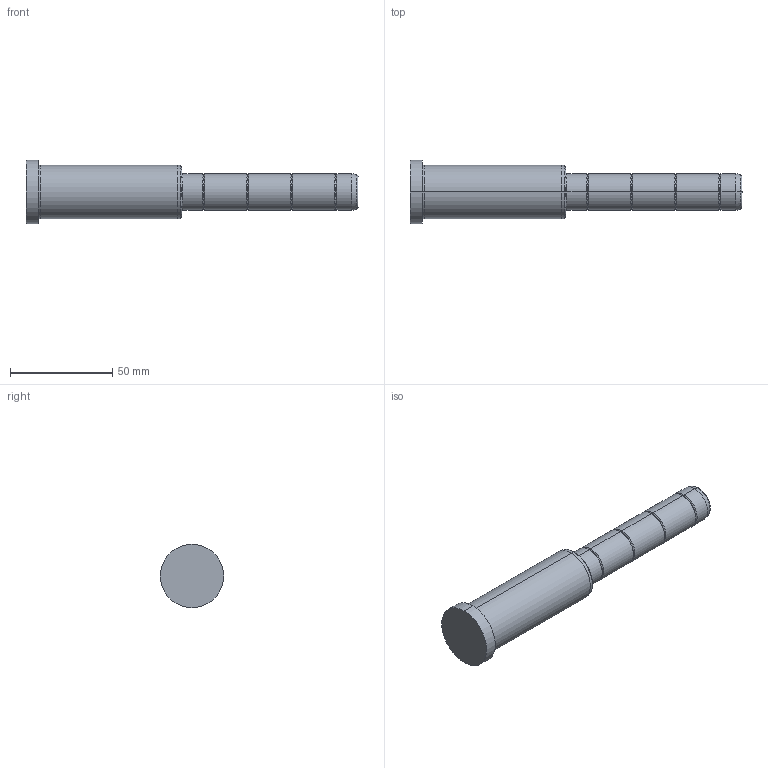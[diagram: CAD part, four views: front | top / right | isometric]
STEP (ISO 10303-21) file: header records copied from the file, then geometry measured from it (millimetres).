
FILE_DESCRIPTION( ( 'STEP AP203' ), '1' );
FILE_NAME( 'C:/Projects/D02 - 18x76x86.step', '2003-01-04T13:27:34', ( ' ' ), ( ' ' ), 'XStep 1.0', ' ', ' ' );
FILE_SCHEMA( ( 'CONFIG_CONTROL_DESIGN' ) );
Length unit declared in the file: metre
Products named in the file (1): 1
Bounding box: 162 x 31 x 31 mm (x, y, z)
Volume: 63467.1 mm3; surface area: 12703.7 mm2
Topology: 1 solids, 1 shells, 48 faces, 94 edges, 52 vertices
Faces by surface type: bspline 26, revolution 22
Entity records: 1523 total; most frequent: CARTESIAN_POINT 617, ORIENTED_EDGE 188, DIRECTION 150, EDGE_CURVE 94, AXIS2_PLACEMENT_3D 53, EDGE_LOOP 52, VERTEX_POINT 52, CIRCLE 52
